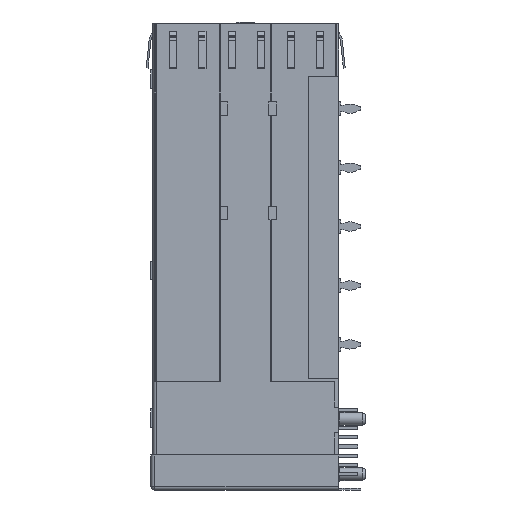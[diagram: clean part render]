
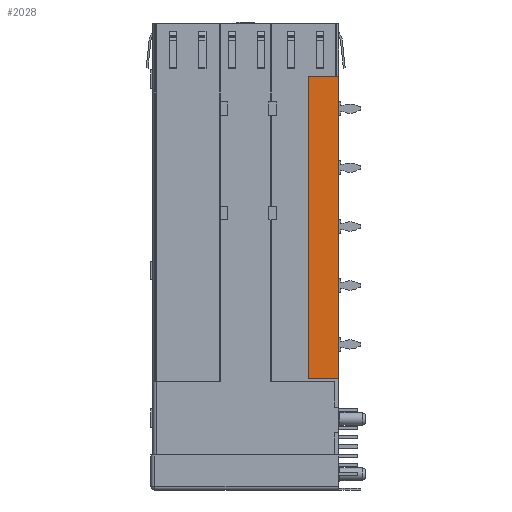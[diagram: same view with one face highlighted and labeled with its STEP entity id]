
A CAD part, left-side view. The second image highlights one B-rep face of the part: STEP entity #2028.
In plain terms, the highlighted planar face has unit normal (-1, 0, 0).
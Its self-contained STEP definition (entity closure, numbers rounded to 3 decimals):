
#2028 = ADVANCED_FACE ( 'NONE', ( #50064 ), #23629, .F. ) ;
#3394 = EDGE_CURVE ( 'NONE', #68888, #91028, #78193, .T. ) ;
#3963 = CARTESIAN_POINT ( 'NONE',  ( -43.125, 0., -48.1 ) ) ;
#7209 = LINE ( 'NONE', #71802, #50852 ) ;
#9570 = CARTESIAN_POINT ( 'NONE',  ( -43.125, 0., -48.1 ) ) ;
#14153 = EDGE_CURVE ( 'NONE', #46118, #27999, #66905, .T. ) ;
#16534 = DIRECTION ( 'NONE',  ( 0., 1., 0. ) ) ;
#18805 = DIRECTION ( 'NONE',  ( 0., -1., 0. ) ) ;
#22463 = DIRECTION ( 'NONE',  ( 0., 0., -1. ) ) ;
#23139 = VECTOR ( 'NONE', #18805, 1000. ) ;
#23629 = PLANE ( 'NONE',  #65867 ) ;
#27999 = VERTEX_POINT ( 'NONE', #49492 ) ;
#29293 = EDGE_CURVE ( 'NONE', #27999, #68888, #7209, .T. ) ;
#34142 = DIRECTION ( 'NONE',  ( 1., 0., 0. ) ) ;
#37987 = EDGE_LOOP ( 'NONE', ( #82667, #75517, #99561, #58427 ) ) ;
#41985 = DIRECTION ( 'NONE',  ( 0., 0., 1. ) ) ;
#42856 = CARTESIAN_POINT ( 'NONE',  ( -43.125, 0., -7.1 ) ) ;
#46118 = VERTEX_POINT ( 'NONE', #90325 ) ;
#49492 = CARTESIAN_POINT ( 'NONE',  ( -43.125, 0., -7.1 ) ) ;
#50064 = FACE_OUTER_BOUND ( 'NONE', #37987, .T. ) ;
#50852 = VECTOR ( 'NONE', #22463, 1000. ) ;
#53588 = VECTOR ( 'NONE', #16534, 1000. ) ;
#58427 = ORIENTED_EDGE ( 'NONE', *, *, #29293, .F. ) ;
#59585 = CARTESIAN_POINT ( 'NONE',  ( -43.125, 0., 0. ) ) ;
#65867 = AXIS2_PLACEMENT_3D ( 'NONE', #59585, #34142, #41985 ) ;
#66905 = LINE ( 'NONE', #42856, #23139 ) ;
#67472 = VECTOR ( 'NONE', #103534, 1000. ) ;
#68261 = CARTESIAN_POINT ( 'NONE',  ( -43.125, 4.1, -48.1 ) ) ;
#68888 = VERTEX_POINT ( 'NONE', #3963 ) ;
#71802 = CARTESIAN_POINT ( 'NONE',  ( -43.125, 0., -7.1 ) ) ;
#75517 = ORIENTED_EDGE ( 'NONE', *, *, #93002, .F. ) ;
#78193 = LINE ( 'NONE', #9570, #53588 ) ;
#82667 = ORIENTED_EDGE ( 'NONE', *, *, #14153, .F. ) ;
#89276 = LINE ( 'NONE', #94866, #67472 ) ;
#90325 = CARTESIAN_POINT ( 'NONE',  ( -43.125, 4.1, -7.1 ) ) ;
#91028 = VERTEX_POINT ( 'NONE', #68261 ) ;
#93002 = EDGE_CURVE ( 'NONE', #91028, #46118, #89276, .T. ) ;
#94866 = CARTESIAN_POINT ( 'NONE',  ( -43.125, 4.1, -7.1 ) ) ;
#99561 = ORIENTED_EDGE ( 'NONE', *, *, #3394, .F. ) ;
#103534 = DIRECTION ( 'NONE',  ( 0., 0., 1. ) ) ;
